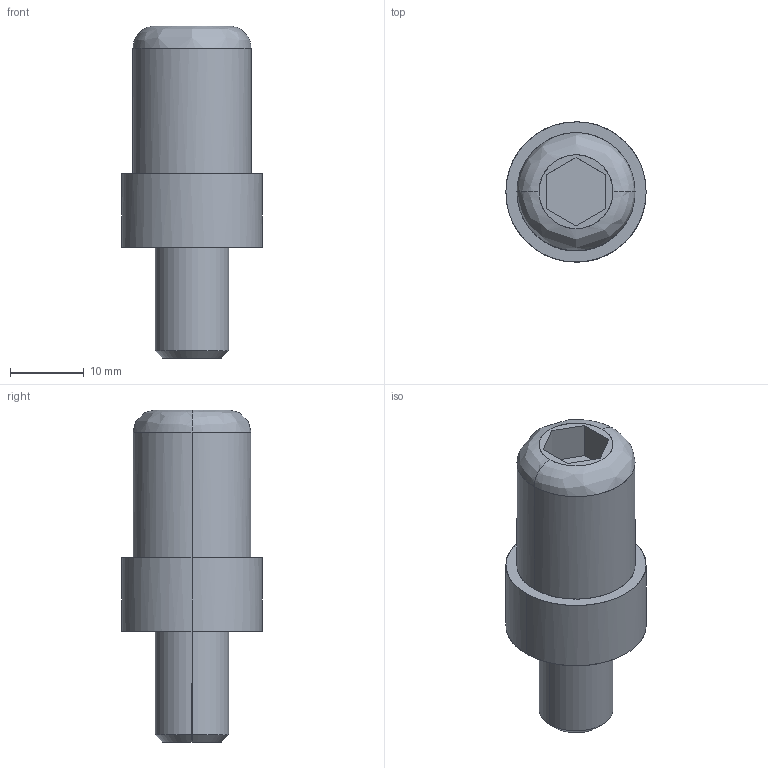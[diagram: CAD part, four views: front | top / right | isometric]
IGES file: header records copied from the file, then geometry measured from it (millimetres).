
Global section: file name: E:\UnigraphicsGraphicData\MISUMI_PRESS-PARTS\IGES\3d_sga19-30_00788_r00.igs; native system: NX V5.0; preprocessor: UGS NX IGES V5.0; author: MISUMI; date: 20110105.162529; units: millimetre
Bounding box: 19 x 19 x 45 mm (x, y, z)
Surface area: 2692 mm2 (no closed solid volume)
Topology: 0 solids, 0 shells, 21 faces, 124 edges, 124 vertices
Faces by surface type: bspline 21
